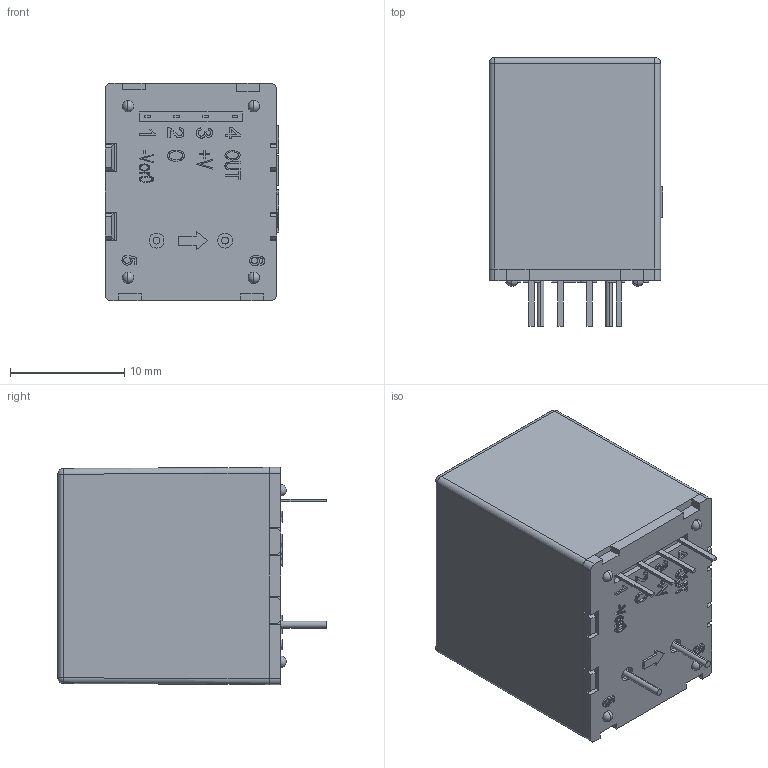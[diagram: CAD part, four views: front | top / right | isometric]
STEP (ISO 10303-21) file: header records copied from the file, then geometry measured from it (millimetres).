
FILE_DESCRIPTION(('Creo Elements/Direct Modeling STEP Export'),'2;1');
FILE_NAME('HXN 03-P_Blackbox.stp','2016-11-09T 9:42:48',(''),(''),'PTC Creo Elements/Direct Modeling STEP processor for AP214 (Solid Model)','PTC Creo Elements/Direct Modeling 19.0B 21-Mar-2015 (C) Parametric Technology GmbH','');
FILE_SCHEMA(('AUTOMOTIVE_DESIGN { 1 0 10303 214 1 1 1 1 }'));
Length unit declared in the file: millimetre
Products named in the file (2): HXN_03_BBOX
Assembly tree (1 placements, depth 2):
  HXN_03_BBOX
    HXN_03_BBOX
Bounding box: 15.2 x 23.5 x 19 mm (x, y, z)
Volume: 5520.3 mm3; surface area: 1962.1 mm2
Topology: 1 solids, 2 shells, 408 faces, 1062 edges, 687 vertices
Faces by surface type: plane 281, bspline 94, cylinder 20, sphere 13
Entity records: 17671 total; most frequent: CARTESIAN_POINT 8346, ORIENTED_EDGE 2100, DIRECTION 1433, EDGE_CURVE 1050, VECTOR 773, LINE 773, VERTEX_POINT 687, EDGE_LOOP 449
